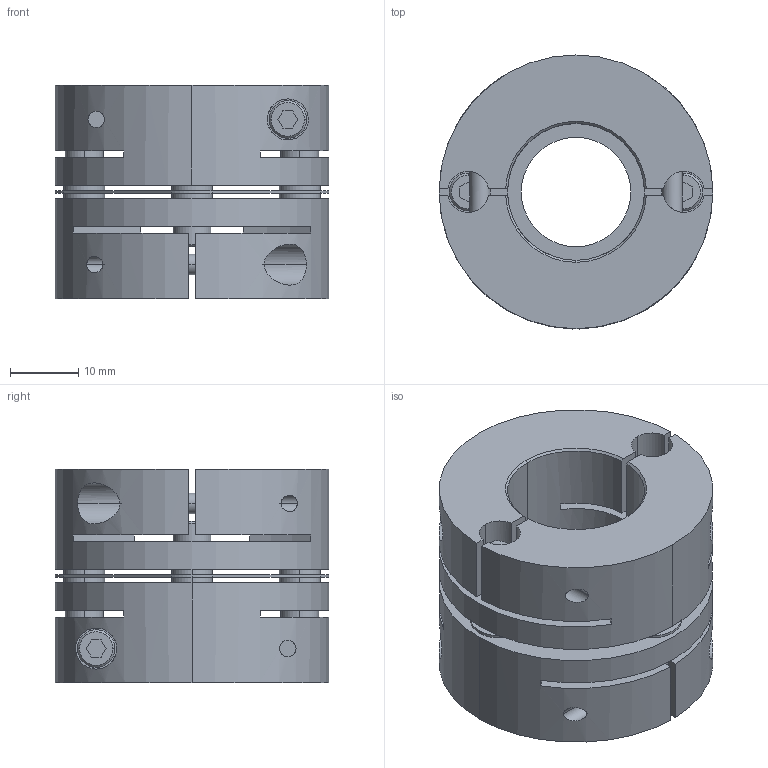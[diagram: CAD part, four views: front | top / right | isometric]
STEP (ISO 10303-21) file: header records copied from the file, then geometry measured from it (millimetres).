
FILE_DESCRIPTION((''),'2;1');
FILE_NAME('LAS-40C-18×20.stp','2014-02-05T09:03:08',(''),(''),'AutoCAD STEP 2000i','AutoCAD 2000i',', , ');
FILE_SCHEMA(('CONFIG_CONTROL_DESIGN'));
Length unit declared in the file: millimetre
Products named in the file (7): LAS-40C-15×15; 忣兜1; LA-4002-D15-1; LA-4002-D15; LA-4002-D10-1; LA-4002-D10; LAS40-ITA
Assembly tree (6 placements, depth 2):
  LAS-40C-15×15
    忣兜1
    LA-4002-D15-1
    LA-4002-D15
    LA-4002-D10-1
    LA-4002-D10
    LAS40-ITA
Bounding box: 40 x 40 x 31.2 mm (x, y, z)
Volume: 26107 mm3; surface area: 14660.7 mm2
Topology: 1 solids, 1 shells, 236 faces, 624 edges, 408 vertices
Faces by surface type: plane 112, cylinder 96, cone 28
Entity records: 8247 total; most frequent: CARTESIAN_POINT 2027, DIRECTION 1306, ORIENTED_EDGE 1248, EDGE_CURVE 624, AXIS2_PLACEMENT_3D 479, VERTEX_POINT 408, VECTOR 348, LINE 348
